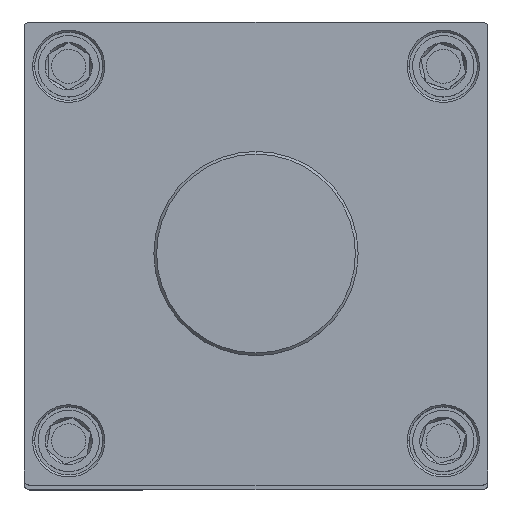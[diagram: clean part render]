
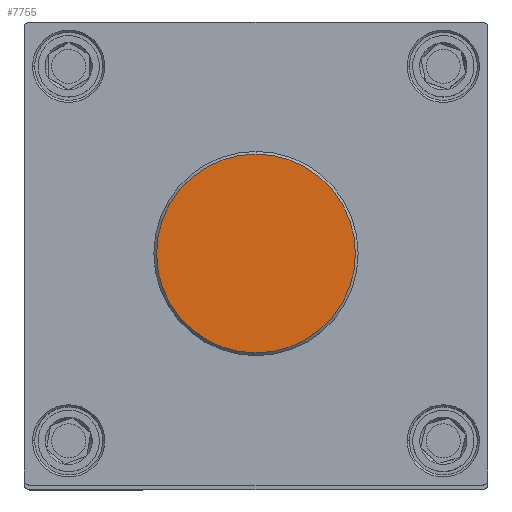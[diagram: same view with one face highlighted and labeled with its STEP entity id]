
A CAD part, top view. The second image highlights one B-rep face of the part: STEP entity #7755.
In plain terms, the highlighted planar face has unit normal (0, 0, 1).
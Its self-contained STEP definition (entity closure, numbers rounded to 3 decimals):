
#59 = DIRECTION ( 'NONE',  ( 0., 0., -1. ) ) ;
#1502 = CARTESIAN_POINT ( 'NONE',  ( 0., 0., 44. ) ) ;
#1513 = EDGE_LOOP ( 'NONE', ( #5852, #7812 ) ) ;
#1533 = AXIS2_PLACEMENT_3D ( 'NONE', #4227, #6905, #2903 ) ;
#1809 = EDGE_CURVE ( 'NONE', #5250, #5221, #4816, .T. ) ;
#2193 = DIRECTION ( 'NONE',  ( 0., 1., 0. ) ) ;
#2903 = DIRECTION ( 'NONE',  ( 0., -1., 0. ) ) ;
#4113 = CARTESIAN_POINT ( 'NONE',  ( 0., 0., 44. ) ) ;
#4227 = CARTESIAN_POINT ( 'NONE',  ( 0., 29.2, 44. ) ) ;
#4327 = AXIS2_PLACEMENT_3D ( 'NONE', #4113, #59, #4789 ) ;
#4367 = CARTESIAN_POINT ( 'NONE',  ( 0., 29.2, 44. ) ) ;
#4789 = DIRECTION ( 'NONE',  ( 0., 1., 0. ) ) ;
#4816 = CIRCLE ( 'NONE', #5607, 29.2 ) ;
#5221 = VERTEX_POINT ( 'NONE', #4367 ) ;
#5250 = VERTEX_POINT ( 'NONE', #8313 ) ;
#5410 = CIRCLE ( 'NONE', #4327, 29.2 ) ;
#5559 = PLANE ( 'NONE',  #1533 ) ;
#5607 = AXIS2_PLACEMENT_3D ( 'NONE', #1502, #6203, #2193 ) ;
#5852 = ORIENTED_EDGE ( 'NONE', *, *, #6580, .F. ) ;
#6203 = DIRECTION ( 'NONE',  ( 0., 0., -1. ) ) ;
#6580 = EDGE_CURVE ( 'NONE', #5221, #5250, #5410, .T. ) ;
#6905 = DIRECTION ( 'NONE',  ( 0., 0., 1. ) ) ;
#7652 = FACE_OUTER_BOUND ( 'NONE', #1513, .T. ) ;
#7755 = ADVANCED_FACE ( 'NONE', ( #7652 ), #5559, .T. ) ;
#7812 = ORIENTED_EDGE ( 'NONE', *, *, #1809, .F. ) ;
#8313 = CARTESIAN_POINT ( 'NONE',  ( 0., -29.2, 44. ) ) ;
